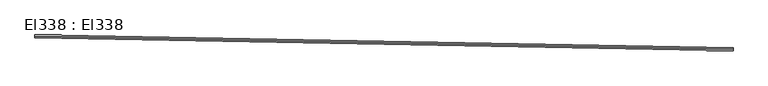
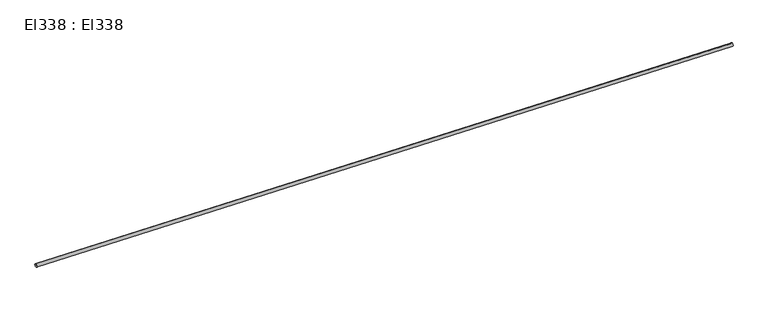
"""IFC4 building model written with IfcOpenShell, lengths in millimetres: cable carrier segment geometry, El338 : El338."""

from ifc_helpers import new_model, si_unit, point, frame, frame_2d, origin, place, context, project, spatial, circle_curve, trimmed, segment, composite_curve, outline, extrude, source, transform, mapped, element, save


def el338_el338_0b3aeddd(model_context):
    return source(origin(), model_context, "Body", "SweptSolid", [
        extrude(outline(composite_curve([segment(trimmed(circle_curve(frame_2d((0.0, -9.5)), 9.5), [point((0.0, -19.0))], [point((0.0, 0.0))], False, "CARTESIAN"), True, "CONTINUOUS"), segment(trimmed(circle_curve(frame_2d((0.0, -9.5)), 9.5), [point((0.0, 0.0))], [point((0.0, -19.0))], False, "CARTESIAN"), True, "CONTINUOUS")], self_intersect=False)), frame((28206.65, 7745.4787, 9.5), z_axis=(-0.9998306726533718, 0.018401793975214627, 0.0), x_axis=(-0.018401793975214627, -0.9998306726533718, 0.0)), (0.0, 0.0, 1.0), 4316.02),
    ])


if __name__ == "__main__":
    model = new_model("IFC4")
    model_context = context("Model", 3, world=origin())
    ifc_project = project(units=[si_unit("LENGTHUNIT", "METRE", prefix="MILLI")], contexts=[model_context])
    site = spatial("IfcSite", under=ifc_project)
    building = spatial("IfcBuilding", under=site)
    placement = place(None, origin())
    el338_el338_shape = el338_el338_0b3aeddd(model_context)
    element("IfcCableCarrierSegment", 1, ObjectType="El338 : El338", at=placement, inside=building, context=model_context, shape_type="MappedRepresentation", body=[
        mapped(el338_el338_shape, transform((0.0, 0.0, 0.0), x_axis=(1.0, 0.0, 0.0), y_axis=(0.0, 1.0, 0.0), z_axis=(0.0, 0.0, 1.0))),
    ])
    save(model, "model.ifc")
